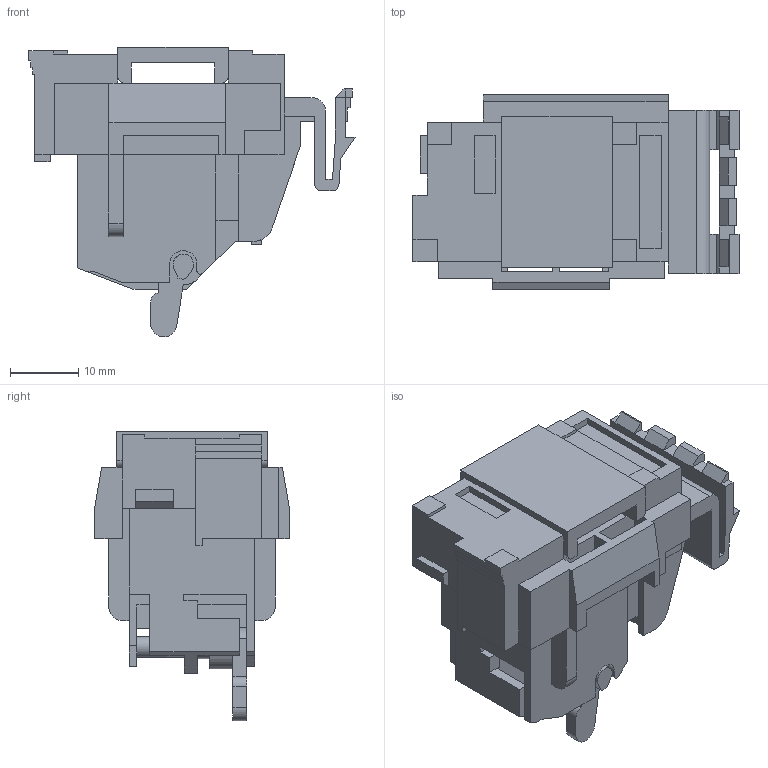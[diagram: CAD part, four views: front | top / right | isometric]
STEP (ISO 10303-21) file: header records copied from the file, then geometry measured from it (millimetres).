
FILE_DESCRIPTION(/* description */ (''),/* implementation_level */ '2;1');
FILE_NAME(/* name */ '2023.11.10.stp',/* time_stamp */ '2023-11-10T14:07:32+08:00',/* author */ (''),/* organization */ (''),/* preprocessor_version */ 'ST-DEVELOPER v16',/* originating_system */ 'SIEMENS PLM Software NX 10.0',/* authorisation */ '');
FILE_SCHEMA (('AUTOMOTIVE_DESIGN { 1 0 10303 214 3 1 1 1 }'));
Length unit declared in the file: millimetre
Products named in the file (1): midi08580DE3vsa1
Bounding box: 47.87 x 28.5 x 42.49 mm (x, y, z)
Volume: 16331.1 mm3; surface area: 10731.8 mm2
Topology: 1 solids, 1 shells, 302 faces, 897 edges, 581 vertices
Faces by surface type: plane 279, cylinder 23
Full cylindrical faces by diameter (mm): 3 x3
Entity records: 9925 total; most frequent: ORIENTED_EDGE 1782, CARTESIAN_POINT 1778, DIRECTION 1551, EDGE_CURVE 891, LINE 833, VECTOR 833, VERTEX_POINT 578, AXIS2_PLACEMENT_3D 359
